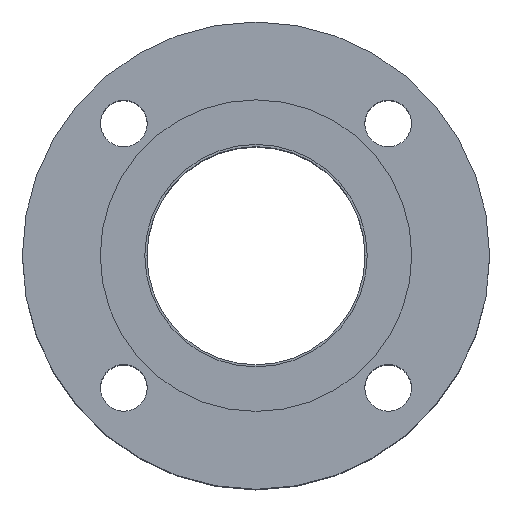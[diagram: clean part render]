
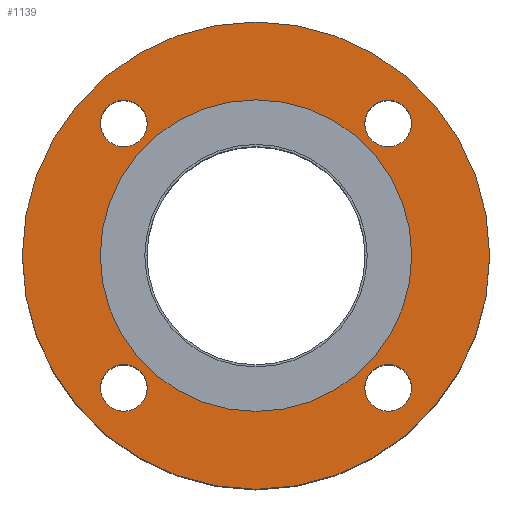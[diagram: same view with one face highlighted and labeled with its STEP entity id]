
A CAD part, top view. The second image highlights one B-rep face of the part: STEP entity #1139.
In plain terms, the highlighted planar face has unit normal (0, 0, 1).
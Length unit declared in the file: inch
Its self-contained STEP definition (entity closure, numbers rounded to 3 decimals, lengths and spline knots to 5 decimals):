
#80=FACE_BOUND('',#311,.T.);
#81=FACE_BOUND('',#312,.T.);
#82=FACE_BOUND('',#313,.T.);
#83=FACE_BOUND('',#314,.T.);
#84=FACE_BOUND('',#315,.T.);
#126=PLANE('',#1300);
#213=FACE_OUTER_BOUND('',#310,.T.);
#310=EDGE_LOOP('',(#877));
#311=EDGE_LOOP('',(#878));
#312=EDGE_LOOP('',(#879));
#313=EDGE_LOOP('',(#880));
#314=EDGE_LOOP('',(#881));
#315=EDGE_LOOP('',(#882));
#455=CIRCLE('',#1267,0.375);
#457=CIRCLE('',#1270,0.375);
#459=CIRCLE('',#1273,0.375);
#461=CIRCLE('',#1276,0.375);
#474=CIRCLE('',#1295,2.5);
#476=CIRCLE('',#1299,3.75);
#587=VERTEX_POINT('',#2002);
#589=VERTEX_POINT('',#2008);
#591=VERTEX_POINT('',#2014);
#593=VERTEX_POINT('',#2020);
#604=VERTEX_POINT('',#2052);
#606=VERTEX_POINT('',#2059);
#683=EDGE_CURVE('',#587,#587,#455,.T.);
#686=EDGE_CURVE('',#589,#589,#457,.T.);
#689=EDGE_CURVE('',#591,#591,#459,.T.);
#692=EDGE_CURVE('',#593,#593,#461,.T.);
#708=EDGE_CURVE('',#604,#604,#474,.T.);
#710=EDGE_CURVE('',#606,#606,#476,.T.);
#877=ORIENTED_EDGE('',*,*,#710,.T.);
#878=ORIENTED_EDGE('',*,*,#683,.T.);
#879=ORIENTED_EDGE('',*,*,#686,.T.);
#880=ORIENTED_EDGE('',*,*,#689,.T.);
#881=ORIENTED_EDGE('',*,*,#692,.T.);
#882=ORIENTED_EDGE('',*,*,#708,.T.);
#1139=ADVANCED_FACE('',(#213,#80,#81,#82,#83,#84),#126,.T.);
#1267=AXIS2_PLACEMENT_3D('',#2003,#1511,#1512);
#1270=AXIS2_PLACEMENT_3D('',#2009,#1518,#1519);
#1273=AXIS2_PLACEMENT_3D('',#2015,#1525,#1526);
#1276=AXIS2_PLACEMENT_3D('',#2021,#1532,#1533);
#1295=AXIS2_PLACEMENT_3D('',#2054,#1573,#1574);
#1299=AXIS2_PLACEMENT_3D('',#2060,#1581,#1582);
#1300=AXIS2_PLACEMENT_3D('',#2062,#1584,#1585);
#1511=DIRECTION('center_axis',(0.,0.,-1.));
#1512=DIRECTION('ref_axis',(0.,-1.,0.));
#1518=DIRECTION('center_axis',(0.,0.,-1.));
#1519=DIRECTION('ref_axis',(-1.,0.,0.));
#1525=DIRECTION('center_axis',(0.,0.,-1.));
#1526=DIRECTION('ref_axis',(0.,1.,0.));
#1532=DIRECTION('center_axis',(0.,0.,-1.));
#1533=DIRECTION('ref_axis',(1.,0.,0.));
#1573=DIRECTION('center_axis',(0.,0.,-1.));
#1574=DIRECTION('ref_axis',(0.,1.,0.));
#1581=DIRECTION('center_axis',(0.,0.,1.));
#1582=DIRECTION('ref_axis',(1.,0.,0.));
#1584=DIRECTION('center_axis',(0.,0.,1.));
#1585=DIRECTION('ref_axis',(1.,0.,0.));
#2002=CARTESIAN_POINT('',(2.12132,2.49632,0.44));
#2003=CARTESIAN_POINT('Origin',(2.12132,2.12132,0.44));
#2008=CARTESIAN_POINT('',(2.49632,-2.12132,0.44));
#2009=CARTESIAN_POINT('Origin',(2.12132,-2.12132,0.44));
#2014=CARTESIAN_POINT('',(-2.12132,-2.49632,0.44));
#2015=CARTESIAN_POINT('Origin',(-2.12132,-2.12132,0.44));
#2020=CARTESIAN_POINT('',(-2.49632,2.12132,0.44));
#2021=CARTESIAN_POINT('Origin',(-2.12132,2.12132,0.44));
#2052=CARTESIAN_POINT('',(0.,-2.5,0.44));
#2054=CARTESIAN_POINT('Origin',(0.,0.,0.44));
#2059=CARTESIAN_POINT('',(0.,-3.75,0.44));
#2060=CARTESIAN_POINT('Origin',(0.,0.,0.44));
#2062=CARTESIAN_POINT('Origin',(0.,1.785,0.44));
